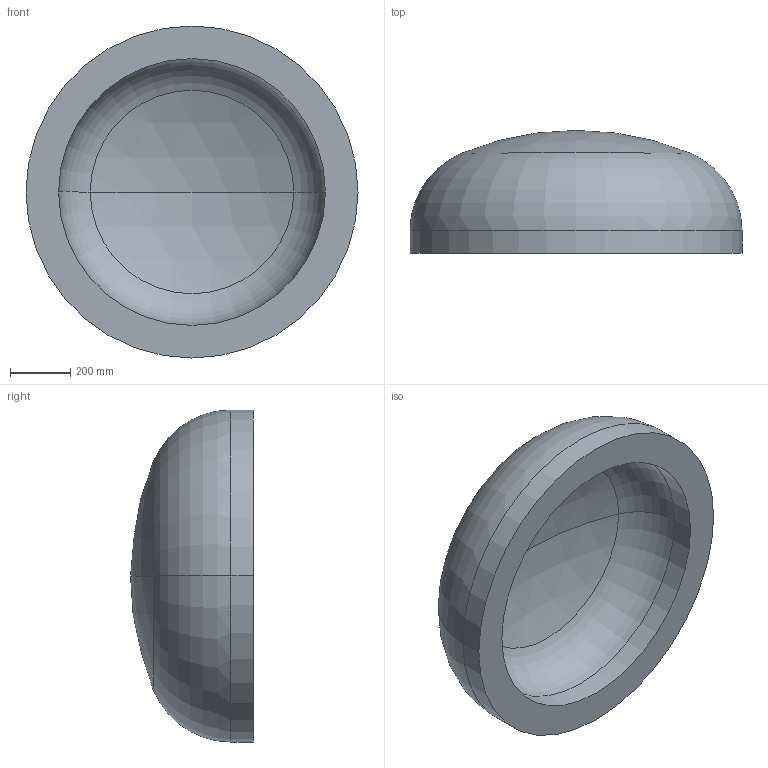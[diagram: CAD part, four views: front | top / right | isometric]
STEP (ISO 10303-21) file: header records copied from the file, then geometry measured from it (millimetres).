
FILE_DESCRIPTION (( 'STEP AP203' ), '1' );
FILE_NAME ('DIN 28013 Korbbogenform_-_Boden DIN 28013 - 1100 x 75 - I - s=108.step', '2016-07-01T09:17:08', ( '' ), ( '' ), 'SwSTEP 2.0', 'SolidWorks 2013', '' );
FILE_SCHEMA (( 'CONFIG_CONTROL_DESIGN' ));
Length unit declared in the file: millimetre
Products named in the file (1): DIN 28013 Korbbogenform_-_Boden DIN 28013 - 1100 x 75 - I - s=108
Bounding box: 1100 x 407.17 x 1100 mm (x, y, z)
Volume: 151206086.9 mm3; surface area: 3161119 mm2
Topology: 1 solids, 1 shells, 13 faces, 24 edges, 14 vertices
Faces by surface type: torus 4, cylinder 4, sphere 4, plane 1
Entity records: 407 total; most frequent: DIRECTION 72, CARTESIAN_POINT 52, ORIENTED_EDGE 48, AXIS2_PLACEMENT_3D 34, EDGE_CURVE 24, CIRCLE 20, EDGE_LOOP 14, VERTEX_POINT 14
